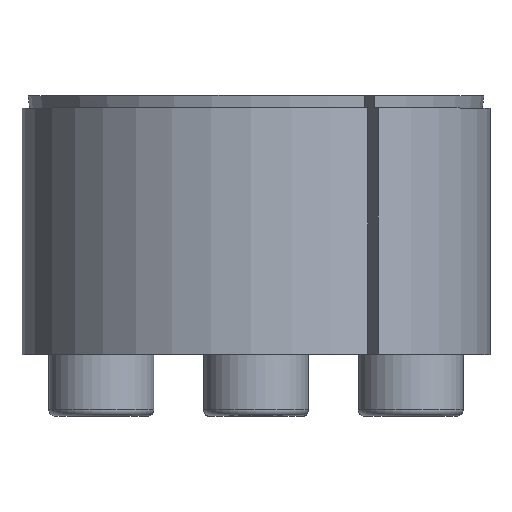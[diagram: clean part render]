
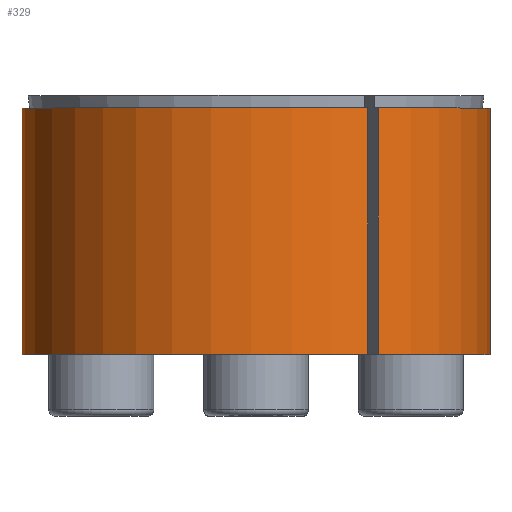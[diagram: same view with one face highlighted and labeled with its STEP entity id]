
A CAD part, top view. The second image highlights one B-rep face of the part: STEP entity #329.
In plain terms, the highlighted cylindrical face has radius 19 mm (diameter 38 mm), a partial arc.
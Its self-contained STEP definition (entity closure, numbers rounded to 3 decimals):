
#329 = ADVANCED_FACE( '', ( #514 ), #515, .T. );
#514 = FACE_OUTER_BOUND( '', #616, .T. );
#515 = CYLINDRICAL_SURFACE( '', #617, 19. );
#616 = EDGE_LOOP( '', ( #783, #784, #785, #786 ) );
#617 = AXIS2_PLACEMENT_3D( '', #787, #788, #789 );
#783 = ORIENTED_EDGE( '', *, *, #986, .T. );
#784 = ORIENTED_EDGE( '', *, *, #990, .T. );
#785 = ORIENTED_EDGE( '', *, *, #981, .T. );
#786 = ORIENTED_EDGE( '', *, *, #969, .T. );
#787 = CARTESIAN_POINT( '', ( 0., -60., 0. ) );
#788 = DIRECTION( '', ( 0., -1., 0. ) );
#789 = DIRECTION( '', ( 0., 0., 1. ) );
#969 = EDGE_CURVE( '', #1070, #1068, #1071, .T. );
#981 = EDGE_CURVE( '', #1092, #1070, #1093, .T. );
#986 = EDGE_CURVE( '', #1068, #1098, #1100, .T. );
#990 = EDGE_CURVE( '', #1098, #1092, #1105, .F. );
#1068 = VERTEX_POINT( '', #1139 );
#1070 = VERTEX_POINT( '', #1142 );
#1071 = LINE( '', #1143, #1144 );
#1092 = VERTEX_POINT( '', #1172 );
#1093 = CIRCLE( '', #1173, 19. );
#1098 = VERTEX_POINT( '', #1182 );
#1100 = CIRCLE( '', #1185, 19. );
#1105 = LINE( '', #1192, #1193 );
#1139 = CARTESIAN_POINT( '', ( 9.086, 9.5, 16.687 ) );
#1142 = CARTESIAN_POINT( '', ( 9.086, -10.5, 16.687 ) );
#1143 = CARTESIAN_POINT( '', ( 9.086, -60., 16.687 ) );
#1144 = VECTOR( '', #1223, 1000. );
#1172 = CARTESIAN_POINT( '', ( 9.908, -10.5, 16.212 ) );
#1173 = AXIS2_PLACEMENT_3D( '', #1249, #1250, #1251 );
#1182 = CARTESIAN_POINT( '', ( 9.908, 9.5, 16.212 ) );
#1185 = AXIS2_PLACEMENT_3D( '', #1257, #1258, #1259 );
#1192 = CARTESIAN_POINT( '', ( 9.908, -60., 16.212 ) );
#1193 = VECTOR( '', #1265, 1000. );
#1223 = DIRECTION( '', ( 0., 1., 0. ) );
#1249 = CARTESIAN_POINT( '', ( 0., -10.5, 0. ) );
#1250 = DIRECTION( '', ( 0., 1., 0. ) );
#1251 = DIRECTION( '', ( 0., 0., 1. ) );
#1257 = CARTESIAN_POINT( '', ( 0., 9.5, 0. ) );
#1258 = DIRECTION( '', ( 0., -1., 0. ) );
#1259 = DIRECTION( '', ( 0., 0., -1. ) );
#1265 = DIRECTION( '', ( 0., 1., 0. ) );
